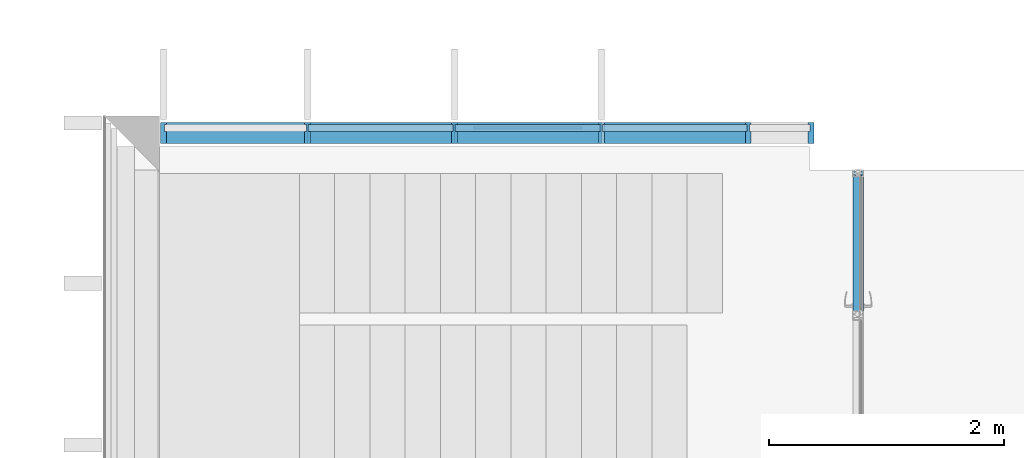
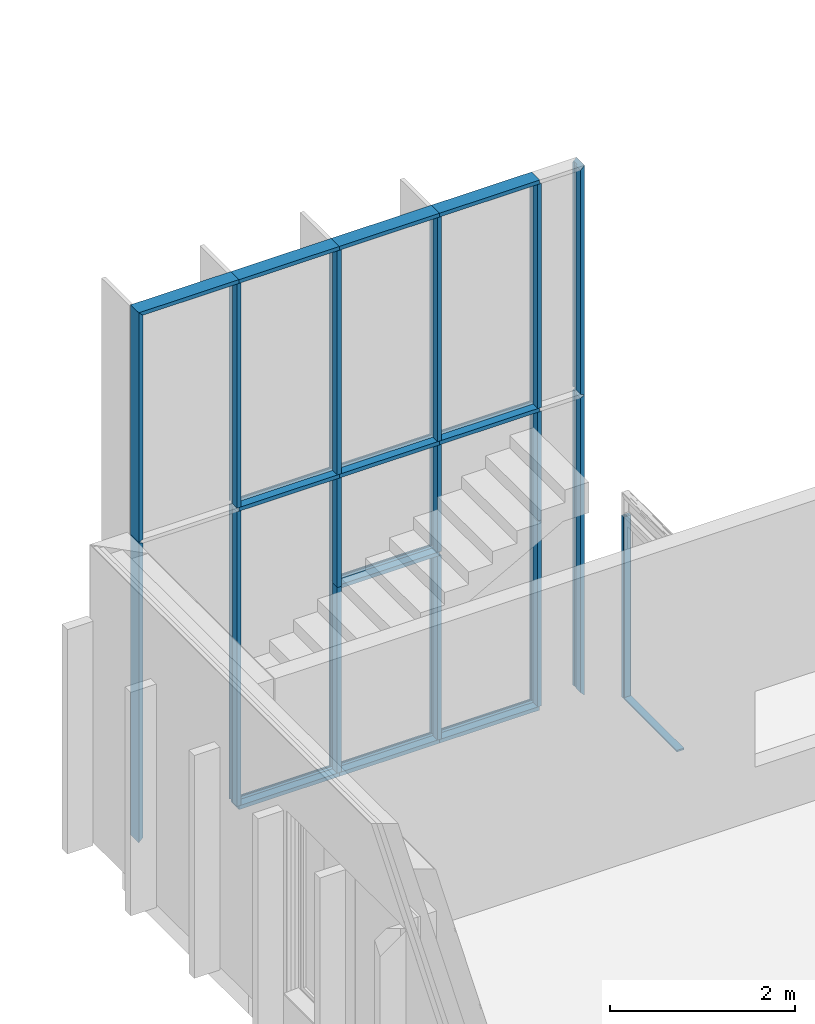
# One storey, part 5 of 65: 28 members, 2 elements without a shape of their own.
"""IFC2X3 building model written with IfcOpenShell, lengths in millimetres."""

import ifcopenshell
import ifcopenshell.guid

model = None  # the IFC model being written
_history = None  # IfcOwnerHistory: only IFC2X3 demands one
_inside = {}  # id of a spatial element -> (the spatial element, [elements in it])
_under = {}  # id of a project, library or spatial element -> (it, [spatial elements below it])
_declared = {}  # id of a project -> (the project, [libraries it declares])
_typed = {}  # id of a type object -> (the type object, [elements of that type])
_made_of = {}  # id of a material, layer set ... -> (it, [elements and type objects made of it])


def new_model(schema):
    """Start an empty IFC model of exactly this schema.

    Asked for "IFC4X3", IfcOpenShell would pick the latest addendum, in which some entities
    have other attributes; the version numbers below select the first issue.
    IFC2X3 requires an IfcOwnerHistory on every rooted entity: one is made here for all.
    """
    global model, _history
    if schema == "IFC4X3":
        model = ifcopenshell.file(schema_version=(4, 3, 0, 0))
    else:
        model = ifcopenshell.file(schema=schema)
    _inside.clear()
    _under.clear()
    _declared.clear()
    _typed.clear()
    _made_of.clear()
    _history = None
    if model.schema == "IFC2X3":
        org = make("IfcOrganization", Name="unknown")
        user = make(
            "IfcPersonAndOrganization",
            ThePerson=make("IfcPerson", FamilyName="unknown"),
            TheOrganization=org,
        )
        app = make(
            "IfcApplication",
            ApplicationDeveloper=org,
            Version="unknown",
            ApplicationFullName="unknown",
            ApplicationIdentifier="unknown",
        )
        _history = make(
            "IfcOwnerHistory",
            OwningUser=user,
            OwningApplication=app,
            ChangeAction="ADDED",
            CreationDate=0,
        )
    return model


def make(cls, **values):
    """One entity of the class cls with the attributes given. An attribute that is None is left unset."""
    return model.create_entity(
        cls, **{name: value for name, value in values.items() if value is not None}
    )


def entity(cls, *values):
    """Any entity or typed value of the class cls, its attributes in the order of the schema. None: left unset."""
    e = model.create_entity(cls)
    for i, value in enumerate(values):
        if value is not None:
            e[i] = value
    return e


def rooted(cls, **values):
    """An entity with a GlobalId (a new one), such as an element, a storey or a relation."""
    return make(cls, GlobalId=ifcopenshell.guid.new(), OwnerHistory=_history, **values)


def si_unit(unit_type, name, prefix=None):
    """IfcSIUnit, for example si_unit("LENGTHUNIT", "METRE", prefix="MILLI")."""
    return make("IfcSIUnit", UnitType=unit_type, Prefix=prefix, Name=name)


def converted_unit(unit_type, name, factor, base, dimensions=None, offset=None):
    """IfcConversionBasedUnit, such as the inch: factor (a typed value) times the base unit."""
    return make(
        "IfcConversionBasedUnit"
        if offset is None
        else "IfcConversionBasedUnitWithOffset",
        ConversionOffset=offset,
        Dimensions=None
        if dimensions is None
        else entity("IfcDimensionalExponents", *dimensions),
        UnitType=unit_type,
        Name=name,
        ConversionFactor=make(
            "IfcMeasureWithUnit", ValueComponent=factor, UnitComponent=base
        ),
    )


def derived_unit(unit_type, elements):
    """IfcDerivedUnit: a product of units, each with its exponent."""
    return make(
        "IfcDerivedUnit",
        Elements=[
            make("IfcDerivedUnitElement", Unit=unit, Exponent=power)
            for unit, power in elements
        ],
        UnitType=unit_type,
    )


def money_unit(currency):
    """IfcMonetaryUnit."""
    return make("IfcMonetaryUnit", Currency=currency)


def assignment(units):
    """IfcUnitAssignment: the units of a project."""
    return None if units is None else make("IfcUnitAssignment", Units=units)


def point(xyz):
    """IfcCartesianPoint."""
    return None if xyz is None else make("IfcCartesianPoint", Coordinates=xyz)


def direction(xyz):
    """IfcDirection."""
    return None if xyz is None else make("IfcDirection", DirectionRatios=xyz)


def frame(location, z_axis=None, x_axis=None):
    """IfcAxis2Placement3D, a coordinate frame: its origin and axes. An axis left out is left unset."""
    return make(
        "IfcAxis2Placement3D",
        Location=point(location),
        Axis=direction(z_axis),
        RefDirection=direction(x_axis),
    )


def origin_with_axes():
    """The frame at (0, 0, 0) with the z axis (0, 0, 1) and the x axis (1, 0, 0) written out."""
    return frame((0.0, 0.0, 0.0), z_axis=(0.0, 0.0, 1.0), x_axis=(1.0, 0.0, 0.0))


def place(relative_to, where):
    """IfcLocalPlacement: puts the frame where relative to a parent placement (None: the world)."""
    return make(
        "IfcLocalPlacement", PlacementRelTo=relative_to, RelativePlacement=where
    )


def context(
    kind, dimensions, precision=None, world=None, true_north=None, identifier=None
):
    """IfcGeometricRepresentationContext, for example the 3D "Model" context."""
    return make(
        "IfcGeometricRepresentationContext",
        ContextIdentifier=identifier,
        ContextType=kind,
        CoordinateSpaceDimension=dimensions,
        Precision=precision,
        WorldCoordinateSystem=world,
        TrueNorth=true_north,
    )


def subcontext(parent, identifier, kind, view, scale=None):
    """IfcGeometricRepresentationSubContext, for example "Body" below "Model"."""
    return make(
        "IfcGeometricRepresentationSubContext",
        ContextIdentifier=identifier,
        ContextType=kind,
        ParentContext=parent,
        TargetScale=scale,
        TargetView=view,
    )


def project(units=None, contexts=None):
    """IfcProject with its units and contexts."""
    return rooted(
        "IfcProject",
        Name="project",
        RepresentationContexts=contexts,
        UnitsInContext=assignment(units),
    )


def spatial(cls, under=None, at=None, **own):
    """A site, building, storey or space (cls), placed at a placement, below another one or the project."""
    s = rooted(cls, ObjectPlacement=at, **own)
    if under is not None:
        _under.setdefault(under.id(), (under, []))[1].append(s)
    return s


def polyline(points):
    """IfcPolyline through the points."""
    return make("IfcPolyline", Points=[point(p) for p in points])


def outline(outer, holes=None, kind="AREA"):
    """IfcArbitraryClosedProfileDef: a profile drawn as a closed curve; with holes, ...WithVoids."""
    if holes is None:
        return make("IfcArbitraryClosedProfileDef", ProfileType=kind, OuterCurve=outer)
    return make(
        "IfcArbitraryProfileDefWithVoids",
        ProfileType=kind,
        OuterCurve=outer,
        InnerCurves=holes,
    )


def extrude(swept, where, along, depth):
    """IfcExtrudedAreaSolid: the profile swept, set in the frame where, extruded along a direction by depth."""
    return make(
        "IfcExtrudedAreaSolid",
        SweptArea=swept,
        Position=where,
        ExtrudedDirection=direction(along),
        Depth=depth,
    )


def clip(a, b, op="DIFFERENCE"):
    """IfcBooleanClippingResult: the solid a cut by the half space b."""
    return make(
        "IfcBooleanClippingResult", Operator=op, FirstOperand=a, SecondOperand=b
    )


def halfspace(plane, agree):
    """IfcHalfSpaceSolid: all space on one side of the plane z = 0 of the frame plane."""
    return make(
        "IfcHalfSpaceSolid",
        BaseSurface=make("IfcPlane", Position=plane),
        AgreementFlag=agree,
    )


def shape(context_of_items, identifier, shape_type, items):
    """IfcShapeRepresentation: the items that make up one representation, for example the "Body"."""
    return make(
        "IfcShapeRepresentation",
        ContextOfItems=context_of_items,
        RepresentationIdentifier=identifier,
        RepresentationType=shape_type,
        Items=items,
    )


def material(Name=None, Category=None):
    """IfcMaterial."""
    return make("IfcMaterial", Name=Name, Category=Category)


def made_of(thing, what):
    """Note that an element or type object is made of a material, layer set ...; save() writes the relation."""
    if what is not None:
        _made_of.setdefault(what.id(), (what, []))[1].append(thing)
    return thing


def type_object(cls, material=None, **own):
    """A type object (cls), such as IfcWallType, which elements share."""
    return made_of(rooted(cls, **own), material)


def element(
    cls,
    number,
    at=None,
    inside=None,
    cuts=None,
    type_object=None,
    material=None,
    context=None,
    identifier="Body",
    shape_type=None,
    held_by="IfcProductDefinitionShape",
    body=None,
    shapes=None,
    **own,
):
    """One element of the class cls, such as IfcWall. Its Tag is "e" and its number.

    at: its placement. inside: the storey or other place that contains it. cuts: it is an
    opening in that element (IfcRelVoidsElement). A single representation is given by context,
    identifier, shape_type and body (its items); several are given by shapes. held_by: the class
    of the entity that holds the representations. save() writes the other relations.
    """
    e = rooted(cls, Tag="e%d" % number, ObjectPlacement=at, **own)
    if body is not None:
        shapes = [shape(context, identifier, shape_type, body)]
    if shapes is not None:
        e.Representation = make(held_by, Representations=shapes)
    if inside is not None:
        _inside.setdefault(inside.id(), (inside, []))[1].append(e)
    if cuts is not None:
        rooted(
            "IfcRelVoidsElement", RelatingBuildingElement=cuts, RelatedOpeningElement=e
        )
    if type_object is not None:
        _typed.setdefault(type_object.id(), (type_object, []))[1].append(e)
    return made_of(e, material)


def aggregate(whole, parts):
    """IfcRelAggregates: a whole, such as a stair, and the parts it consists of."""
    return rooted("IfcRelAggregates", RelatingObject=whole, RelatedObjects=parts)


def save(model, path):
    """Write the relations noted so far, then the file.

    IfcRelAggregates (storeys below a building ...), IfcRelContainedInSpatialStructure (elements
    in a storey), IfcRelDefinesByType, IfcRelAssociatesMaterial and IfcRelDeclares: one each for
    every whole, place, type object, material and project.
    """
    for whole, parts in _under.values():
        aggregate(whole, parts)
    for where, things in _inside.values():
        rooted(
            "IfcRelContainedInSpatialStructure",
            RelatedElements=things,
            RelatingStructure=where,
        )
    for kind, things in _typed.values():
        rooted("IfcRelDefinesByType", RelatedObjects=things, RelatingType=kind)
    for what, things in _made_of.values():
        rooted("IfcRelAssociatesMaterial", RelatedObjects=things, RelatingMaterial=what)
    for by, libraries in _declared.values():
        rooted("IfcRelDeclares", RelatingContext=by, RelatedDefinitions=libraries)
    model.write(path)


model = new_model("IFC2X3")

# Units and contexts
model_context = context("Model", 3, precision=0.01, world=origin_with_axes(), true_north=direction((0.0, 1.0)))
body_context = subcontext(model_context, "Body", "Model", "MODEL_VIEW")
ifc_project = project(units=[si_unit("LENGTHUNIT", "METRE", prefix="MILLI"), si_unit("AREAUNIT", "SQUARE_METRE"), si_unit("VOLUMEUNIT", "CUBIC_METRE"), converted_unit("PLANEANGLEUNIT", "DEGREE", entity("IfcPlaneAngleMeasure", 0.0174532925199), si_unit("PLANEANGLEUNIT", "RADIAN"), dimensions=[0, 0, 0, 0, 0, 0, 0]), si_unit("SOLIDANGLEUNIT", "STERADIAN"), money_unit("EUR"), converted_unit("TIMEUNIT", "Year", entity("IfcTimeMeasure", 31556926.0), si_unit("TIMEUNIT", "SECOND"), dimensions=[0, 0, 1, 0, 0, 0, 0]), si_unit("MASSUNIT", "GRAM", prefix="KILO"), si_unit("THERMODYNAMICTEMPERATUREUNIT", "DEGREE_CELSIUS"), si_unit("LUMINOUSINTENSITYUNIT", "LUMEN"), si_unit("ENERGYUNIT", "JOULE", prefix="MEGA"), derived_unit("THERMALCONDUCTANCEUNIT", [(si_unit("POWERUNIT", "WATT"), 1), (si_unit("LENGTHUNIT", "METRE"), -1), (si_unit("THERMODYNAMICTEMPERATUREUNIT", "KELVIN"), -1)]), derived_unit("SPECIFICHEATCAPACITYUNIT", [(si_unit("ENERGYUNIT", "JOULE"), 1), (si_unit("MASSUNIT", "GRAM", prefix="KILO"), -1), (si_unit("THERMODYNAMICTEMPERATUREUNIT", "KELVIN"), -1)]), derived_unit("MASSDENSITYUNIT", [(si_unit("MASSUNIT", "GRAM", prefix="KILO"), 1), (si_unit("VOLUMEUNIT", "CUBIC_METRE"), -1)])], contexts=[model_context])

# Site, building, storey
site_placement = place(None, origin_with_axes())
site = spatial("IfcSite", under=ifc_project, at=site_placement, Name="Puškini 31, Narva", CompositionType="ELEMENT")
building_placement = place(site_placement, origin_with_axes())
building = spatial("IfcBuilding", under=site, at=building_placement, Name="Narva Riigigümnaasium", CompositionType="ELEMENT")
storey_placement = place(building_placement, frame((0.0, 0.0, -1320.0), z_axis=(0.0, 0.0, 1.0), x_axis=(1.0, 0.0, 0.0)))
storey = spatial("IfcBuildingStorey", under=building, at=storey_placement, Name="1.korrus -1.32", CompositionType="ELEMENT", Elevation=-1320.0)

# Curtain wall, members
curtain_wall_type = type_object("IfcCurtainWallType", Name="Curtain Wall Type", PredefinedType="NOTDEFINED")
curtain_wall_1_placement = place(storey_placement, frame((28354.9542923, 194209.397521, 0.0), z_axis=(0.0, 0.0, 1.0), x_axis=(1.0, 0.0, 0.0)))
curtain_wall_1 = element("IfcCurtainWall", 1, at=curtain_wall_1_placement, inside=storey, type_object=curtain_wall_type, Name="G-SKLF-07")
ifc_material_1 = material(Name="ET-04_Alumiinium")
member_type_1 = type_object("IfcMemberType", Name="53 x 45", PredefinedType="MULLION")
member_1_placement = place(curtain_wall_1_placement, frame((0.00198791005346, 490.602478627, 0.0), z_axis=(0.0, 0.0, 1.0), x_axis=(-4.05197719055e-06, -0.999999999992, 0.0)))
member_1 = element("IfcMember", 2, at=member_1_placement, type_object=member_type_1, material=ifc_material_1, Name="G-SKLF-07-raam", ObjectType="MULLION", context=body_context, shape_type="SweptSolid", body=[
    extrude(outline(polyline([(-40.500006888, -1.6998358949), (-41.5999999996, 0.000168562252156), (-44.9999999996, 0.00018233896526), (-45.0001681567, -41.4998176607), (-36.2001701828, -41.9998533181), (-35.7002135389, -52.699855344), (-27.400215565, -53.1998889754), (-26.9001692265, -41.7638910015), (-26.9001584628, -39.1074867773), (-25.2469499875, -38.5809902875), (-23.0019530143, -38.9999064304), (-22.5019642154, -41.7642675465), (-22.0019757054, -44.5999104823), (-22.5019832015, -46.4499084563), (-20.7019489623, -37.9999157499), (-26.0502128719, -36.9089864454), (-26.250131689, -32.4998936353), (-22.6716742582, -33.3731132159), (-20.9001353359, -33.3999153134), (-20.7001272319, -31.3999161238), (-22.5001272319, -31.3999088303), (-25.4001199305, -29.5979732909), (-26.4981916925, -28.4998926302), (-26.9001094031, -26.9998910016), (-26.9000606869, -14.9770455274), (-17.4196153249, -8.77590536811), (-14.4500352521, -8.69994144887), (-14.9500312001, -7.69993942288), (-17.2400263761, -6.50940455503), (-18.7400093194, -2.29992406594), (-15.8500072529, -1.78993577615), (-21.7000008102, -0.199912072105), (-20.5000048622, -1.19991693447), (-20.5000109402, -2.69991693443), (-25.0000129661, -3.19989870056), (-25.5000028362, -0.699896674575), (-29.5000008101, -0.199880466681), (-28.0000068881, -1.69988654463), (-27.0000162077, -3.99989059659), (-42.0000202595, -4.99982981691), (-43.00001094, -2.69982576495), (-40.500006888, -1.6998358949)])), frame((0.0, 0.0, 0.0), z_axis=(0.0, 0.0, 1.0), x_axis=(-4.05197719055e-06, 0.999999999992, 0.0)), (0.0, 0.0, 1.0), 2400.00002459),
    extrude(outline(polyline([(-11.5049680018, -2.39995338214), (12.0049480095, -2.53402324), (13.3524604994, -4.60005410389), (17.2399736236, -6.5095442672), (18.7399906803, -2.30007593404), (15.8399927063, -1.8000641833), (-15.0400008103, -0.199939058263), (-18.2400072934, -1.79992609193), (-18.740022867, -5.6433730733), (-15.1572012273, -5.31844312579), (-12.3709954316, -2.89994987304), (-11.5049680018, -2.39995338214)])), frame((0.0, 0.0, 0.0), z_axis=(0.0, 0.0, 1.0), x_axis=(-4.05197719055e-06, 0.999999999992, 0.0)), (0.0, 0.0, 1.0), 2400.00002459),
    extrude(outline(polyline([(27.2128353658, -44.2351020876), (24.6998193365, -43.2001000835), (23.0045981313, -43.7249705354), (22.6997973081, -47.2500919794), (21.1997964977, -47.4500859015), (20.9997853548, -50.2000850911), (-20.8001929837, -50.3999157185), (-21.0001818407, -47.6499149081), (-22.5001810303, -47.4499088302), (-22.7001694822, -44.5999080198), (-24.7001694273, -43.1998999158), (-26.3953906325, -43.7247703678), (-26.700215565, -53.1998918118), (26.6997844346, -53.2001081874), (27.2128353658, -44.2351020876)])), frame((0.0, 0.0, 0.0), z_axis=(0.0, 0.0, 1.0), x_axis=(-4.05197719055e-06, 0.999999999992, 0.0)), (0.0, 0.0, 1.0), 2400.00002459),
    extrude(outline(polyline([(44.9999999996, -0.00018233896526), (41.5999999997, -0.000168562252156), (40.4999955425, -1.10016410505), (41.9999931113, -1.70017018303), (42.9999837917, -4.00017423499), (27.9999797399, -5.00011345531), (26.9999890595, -2.70010940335), (30.4999931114, -1.70012358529), (25.9999991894, -0.200105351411), (25.4999890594, -2.7001033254), (20.9999870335, -3.20008509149), (20.4999951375, -1.20008306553), (22.1999951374, -1.2000899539), (15.8499991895, -0.200064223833), (18.5499927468, -1.79007516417), (18.7499748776, -6.20007597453), (15.1571581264, -5.31856595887), (13.9499687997, -7.70005652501), (17.1545848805, -8.70006951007), (26.6649006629, -14.5532385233), (26.8998905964, -27.000108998), (26.4979607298, -28.5001073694), (25.3998800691, -29.5981791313), (23.8998784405, -30.000096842), (20.6998727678, -31.4000838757), (20.6998654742, -33.2000838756), (22.5714036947, -33.4000914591), (25.0498703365, -32.0001015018), (26.2498512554, -36.7091983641), (22.6655739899, -36.9091838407), (20.7015424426, -46.700083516), (22.5015624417, -41.7644498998), (22.5015716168, -39.5000908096), (24.8398988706, -39.0001002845), (26.4936649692, -38.5797344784), (26.8998307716, -41.764468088), (27.3998192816, -44.6001110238), (26.8997864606, -52.7001089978), (35.1997844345, -53.2001426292), (35.6998277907, -42.5001446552), (42.1998298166, -42.0001709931), (42.6997844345, -53.200173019), (44.9997844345, -53.2001823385), (44.9999999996, -0.00018233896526)])), frame((0.0, 0.0, 0.0), z_axis=(0.0, 0.0, 1.0), x_axis=(-4.05197719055e-06, 0.999999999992, 0.0)), (0.0, 0.0, 1.0), 2400.00002459),
])
ifc_material_2 = material(Name="Alumiiniumprofiil")
member_type_2 = type_object("IfcMemberType", Name="20 x 90", PredefinedType="MULLION")
member_2_placement = place(curtain_wall_1_placement, frame((-0.00287447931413, -709.401652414, 0.0), z_axis=(4.05197719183e-06, 0.999999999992, 0.0), x_axis=(0.0, 0.0, 1.0)))
member_2 = element("IfcMember", 3, at=member_2_placement, type_object=member_type_2, material=ifc_material_2, Name="G-SKLF-07-raam", ObjectType="MULLION", context=body_context, shape_type="SweptSolid", body=[
    extrude(outline(polyline([(-45.0, -20.0), (45.0, -20.0), (45.0, 0.0), (-45.0, 0.0), (-45.0, -20.0)])), frame((0.0, 0.0, 0.0), z_axis=(0.0, 0.0, 1.0), x_axis=(0.0, 1.0, 0.0)), (0.0, 0.0, 1.0), 1147.0),
])
aggregate(curtain_wall_1, [member_1, member_2])

curtain_wall_2_placement = place(storey_placement, frame((23044.9999985, 195055.000005, -0.000275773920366), z_axis=(0.0, 0.0, 1.0), x_axis=(1.0, 0.0, 0.0)))
curtain_wall_2 = element("IfcCurtainWall", 4, at=curtain_wall_2_placement, inside=storey, type_object=curtain_wall_type, Name="G-KLF-04")
member_type_3 = type_object("IfcMemberType", Name="Mullion Frame 50 x 176", PredefinedType="MULLION")
member_3_placement = place(curtain_wall_2_placement, frame((625.0, 0.0, 0.0), z_axis=(0.0, 0.0, 1.0), x_axis=(-1.0, 0.0, 0.0)))
member_3 = element("IfcMember", 5, at=member_3_placement, type_object=member_type_3, material=ifc_material_1, Name="klaasfassaadi raam", ObjectType="MULLION", context=body_context, shape_type="SweptSolid", body=[
    extrude(outline(polyline([(10.0, -29.0), (10.0, 29.0), (25.0, 29.0), (25.0, 46.0), (-25.0, 46.0), (-25.0, 29.0), (-10.0, 29.0), (-10.0, -29.0), (-25.0, -29.0), (-25.0, -130.0), (25.0, -130.0), (25.0, -29.0), (10.0, -29.0)])), frame((0.0, 0.0, 50.0), z_axis=(0.0, 0.0, 1.0), x_axis=(-1.0, 0.0, 0.0)), (0.0, 0.0, 1.0), 3885.00002624),
])
member_4_placement = place(curtain_wall_2_placement, frame((1875.0, 0.0, 2500.00029921), z_axis=(0.0, 0.0, 1.0), x_axis=(-1.0, 0.0, 0.0)))
member_4 = element("IfcMember", 6, at=member_4_placement, type_object=member_type_3, material=ifc_material_1, Name="klaasfassaadi raam", ObjectType="MULLION", context=body_context, shape_type="SweptSolid", body=[
    extrude(outline(polyline([(10.0, -29.0), (10.0, 29.0), (25.0, 29.0), (25.0, 46.0), (-25.0, 46.0), (-25.0, 29.0), (-10.0, 29.0), (-10.0, -29.0), (-25.0, -29.0), (-25.0, -130.0), (25.0, -130.0), (25.0, -29.0), (10.0, -29.0)])), frame((0.0, 0.0, 0.0), z_axis=(0.0, 0.0, 1.0), x_axis=(-1.0, 0.0, 0.0)), (0.0, 0.0, 1.0), 1434.99972703),
])
member_5_placement = place(curtain_wall_2_placement, frame((3125.0, 0.0, 2500.00029921), z_axis=(0.0, 0.0, 1.0), x_axis=(-1.0, 0.0, 0.0)))
member_5 = element("IfcMember", 7, at=member_5_placement, type_object=member_type_3, material=ifc_material_1, Name="klaasfassaadi raam", ObjectType="MULLION", context=body_context, shape_type="SweptSolid", body=[
    extrude(outline(polyline([(10.0, -29.0), (10.0, 29.0), (25.0, 29.0), (25.0, 46.0), (-25.0, 46.0), (-25.0, 29.0), (-10.0, 29.0), (-10.0, -29.0), (-25.0, -29.0), (-25.0, -130.0), (25.0, -130.0), (25.0, -29.0), (10.0, -29.0)])), frame((0.0, 0.0, 24.999999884), z_axis=(0.0, 0.0, 1.0), x_axis=(-1.0, 0.0, 0.0)), (0.0, 0.0, 1.0), 1409.99972715),
])
member_6_placement = place(curtain_wall_2_placement, frame((4375.0, 0.0, 2500.00045371), z_axis=(0.0, 0.0, 1.0), x_axis=(-1.0, 0.0, 0.0)))
member_6 = element("IfcMember", 8, at=member_6_placement, type_object=member_type_3, material=ifc_material_1, Name="klaasfassaadi raam", ObjectType="MULLION", context=body_context, shape_type="SweptSolid", body=[
    extrude(outline(polyline([(10.0, -29.0), (10.0, 29.0), (25.0, 29.0), (25.0, 46.0), (-25.0, 46.0), (-25.0, 29.0), (-10.0, 29.0), (-10.0, -29.0), (-25.0, -29.0), (-25.0, -130.0), (25.0, -130.0), (25.0, -29.0), (10.0, -29.0)])), frame((0.0, 0.0, 0.0), z_axis=(0.0, 0.0, 1.0), x_axis=(-1.0, 0.0, 0.0)), (0.0, 0.0, 1.0), 1434.99972703),
])
member_7_placement = place(curtain_wall_2_placement, frame((3125.0, 0.0, 0.0), z_axis=(0.0, 0.0, 1.0), x_axis=(-1.0, 0.0, 0.0)))
member_7 = element("IfcMember", 9, at=member_7_placement, type_object=member_type_3, material=ifc_material_1, Name="klaasfassaadi raam", ObjectType="MULLION", context=body_context, shape_type="SweptSolid", body=[
    extrude(outline(polyline([(10.0, -29.0), (10.0, 29.0), (25.0, 29.0), (25.0, 46.0), (-25.0, 46.0), (-25.0, 29.0), (-10.0, 29.0), (-10.0, -29.0), (-25.0, -29.0), (-25.0, -130.0), (25.0, -130.0), (25.0, -29.0), (10.0, -29.0)])), frame((0.0, 0.0, 50.0), z_axis=(0.0, 0.0, 1.0), x_axis=(-1.0, 0.0, 0.0)), (0.0, 0.0, 1.0), 2425.0003049),
])
member_8_placement = place(curtain_wall_2_placement, frame((1875.0, 0.0, 0.0), z_axis=(0.0, 0.0, 1.0), x_axis=(-1.0, 0.0, 0.0)))
member_8 = element("IfcMember", 10, at=member_8_placement, type_object=member_type_3, material=ifc_material_1, Name="klaasfassaadi raam", ObjectType="MULLION", context=body_context, shape_type="SweptSolid", body=[
    extrude(outline(polyline([(10.0, -29.0), (10.0, 29.0), (25.0, 29.0), (25.0, 46.0), (-25.0, 46.0), (-25.0, 29.0), (-10.0, 29.0), (-10.0, -29.0), (-25.0, -29.0), (-25.0, -130.0), (25.0, -130.0), (25.0, -29.0), (10.0, -29.0)])), frame((0.0, 0.0, 50.0), z_axis=(0.0, 0.0, 1.0), x_axis=(-1.0, 0.0, 0.0)), (0.0, 0.0, 1.0), 2450.00029921),
])
member_9_placement = place(curtain_wall_2_placement, frame((625.0, 0.0, 3960.00002624), z_axis=(0.0, 0.0, 1.0), x_axis=(-1.0, 0.0, 0.0)))
member_9 = element("IfcMember", 11, at=member_9_placement, type_object=member_type_3, material=ifc_material_1, Name="klaasfassaadi raam", ObjectType="MULLION", context=body_context, shape_type="SweptSolid", body=[
    extrude(outline(polyline([(10.0, -29.0), (10.0, 29.0), (25.0, 29.0), (25.0, 46.0), (-25.0, 46.0), (-25.0, 29.0), (-10.0, 29.0), (-10.0, -29.0), (-25.0, -29.0), (-25.0, -130.0), (25.0, -130.0), (25.0, -29.0), (10.0, -29.0)])), frame((0.0, 0.0, 25.0), z_axis=(0.0, 0.0, 1.0), x_axis=(-1.0, 0.0, 0.0)), (0.0, 0.0, 1.0), 2955.00016165),
])
member_10_placement = place(curtain_wall_2_placement, frame((1875.0, 0.0, 3960.00002624), z_axis=(0.0, 0.0, 1.0), x_axis=(-1.0, 0.0, 0.0)))
member_10 = element("IfcMember", 12, at=member_10_placement, type_object=member_type_3, material=ifc_material_1, Name="klaasfassaadi raam", ObjectType="MULLION", context=body_context, shape_type="SweptSolid", body=[
    extrude(outline(polyline([(10.0, -29.0), (10.0, 29.0), (25.0, 29.0), (25.0, 46.0), (-25.0, 46.0), (-25.0, 29.0), (-10.0, 29.0), (-10.0, -29.0), (-25.0, -29.0), (-25.0, -130.0), (25.0, -130.0), (25.0, -29.0), (10.0, -29.0)])), frame((0.0, 0.0, 25.0), z_axis=(0.0, 0.0, 1.0), x_axis=(-1.0, 0.0, 0.0)), (0.0, 0.0, 1.0), 2955.00016165),
])
member_11_placement = place(curtain_wall_2_placement, frame((3125.0, 0.0, 3960.00002624), z_axis=(0.0, 0.0, 1.0), x_axis=(-1.0, 0.0, 0.0)))
member_11 = element("IfcMember", 13, at=member_11_placement, type_object=member_type_3, material=ifc_material_1, Name="klaasfassaadi raam", ObjectType="MULLION", context=body_context, shape_type="SweptSolid", body=[
    extrude(outline(polyline([(10.0, -29.0), (10.0, 29.0), (25.0, 29.0), (25.0, 46.0), (-25.0, 46.0), (-25.0, 29.0), (-10.0, 29.0), (-10.0, -29.0), (-25.0, -29.0), (-25.0, -130.0), (25.0, -130.0), (25.0, -29.0), (10.0, -29.0)])), frame((0.0, 0.0, 25.0), z_axis=(0.0, 0.0, 1.0), x_axis=(-1.0, 0.0, 0.0)), (0.0, 0.0, 1.0), 2955.00016165),
])
member_12_placement = place(curtain_wall_2_placement, frame((4375.0, 0.0, 3960.00002624), z_axis=(0.0, 0.0, 1.0), x_axis=(-1.0, 0.0, 0.0)))
member_12 = element("IfcMember", 14, at=member_12_placement, type_object=member_type_3, material=ifc_material_1, Name="klaasfassaadi raam", ObjectType="MULLION", context=body_context, shape_type="SweptSolid", body=[
    extrude(outline(polyline([(10.0, -29.0), (10.0, 29.0), (25.0, 29.0), (25.0, 46.0), (-25.0, 46.0), (-25.0, 29.0), (-10.0, 29.0), (-10.0, -29.0), (-25.0, -29.0), (-25.0, -130.0), (25.0, -130.0), (25.0, -29.0), (10.0, -29.0)])), frame((0.0, 0.0, 25.0), z_axis=(0.0, 0.0, 1.0), x_axis=(-1.0, 0.0, 0.0)), (0.0, 0.0, 1.0), 2955.00016165),
])
member_13_placement = place(curtain_wall_2_placement, frame((4375.0, 0.0, 0.0), z_axis=(0.0, 0.0, 1.0), x_axis=(-1.0, 0.0, 0.0)))
member_13 = element("IfcMember", 15, at=member_13_placement, type_object=member_type_3, material=ifc_material_1, Name="klaasfassaadi raam", ObjectType="MULLION", context=body_context, shape_type="SweptSolid", body=[
    extrude(outline(polyline([(10.0, -29.0), (10.0, 29.0), (25.0, 29.0), (25.0, 46.0), (-25.0, 46.0), (-25.0, 29.0), (-10.0, 29.0), (-10.0, -29.0), (-25.0, -29.0), (-25.0, -130.0), (25.0, -130.0), (25.0, -29.0), (10.0, -29.0)])), frame((0.0, 0.0, 50.0), z_axis=(0.0, 0.0, 1.0), x_axis=(-1.0, 0.0, 0.0)), (0.0, 0.0, 1.0), 2450.00029921),
])
member_type_4 = type_object("IfcMemberType", Name="Boundary Frame 50 x 176", PredefinedType="MULLION")
member_14_placement = place(curtain_wall_2_placement, frame((-625.0, 0.0, 0.0), z_axis=(0.0, 0.0, 1.0), x_axis=(-1.0, 0.0, 0.0)))
member_14 = element("IfcMember", 16, at=member_14_placement, type_object=member_type_4, material=ifc_material_1, Name="klaasfassaadi raam", ObjectType="MULLION", context=body_context, shape_type="Clipping", body=[
    clip(clip(extrude(outline(polyline([(35.0, -29.0), (35.0, 29.0), (50.0, 29.0), (50.0, 46.0), (0.0, 46.0), (0.0, -130.0), (50.0, -130.0), (50.0, -29.0), (35.0, -29.0)])), frame((0.0, 0.0, 0.0), z_axis=(0.0, 0.0, 1.0), x_axis=(-1.0, 0.0, 0.0)), (0.0, 0.0, 1.0), 3960.00002624), halfspace(frame((-1584.0000105, 0.0, 3168.000021), z_axis=(0.4472135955, 0.0, -0.894427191), x_axis=(0.0, 1.0, 0.0)), True)), halfspace(frame((0.0, 0.0, 0.0), z_axis=(0.707106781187, 0.0, 0.707106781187), x_axis=(0.0, -1.0, 0.0)), True)),
])
member_15_placement = place(curtain_wall_2_placement, frame((625.0, 0.0, 0.0), z_axis=(1.0, 0.0, 0.0), x_axis=(0.0, 0.0, 1.0)))
member_15 = element("IfcMember", 17, at=member_15_placement, type_object=member_type_4, material=ifc_material_1, Name="klaasfassaadi raam", ObjectType="MULLION", context=body_context, shape_type="SweptSolid", body=[
    extrude(outline(polyline([(29.0, -35.0), (29.0, -50.0), (130.0, -50.0), (130.0, 0.0), (-46.0, 0.0), (-46.0, -50.0), (-29.0, -50.0), (-29.0, -35.0), (29.0, -35.0)])), frame((0.0, 0.0, 0.0), z_axis=(0.0, 0.0, 1.0), x_axis=(0.0, 1.0, 0.0)), (0.0, 0.0, 1.0), 1250.0),
])
member_16_placement = place(curtain_wall_2_placement, frame((1875.0, 0.0, 0.0), z_axis=(1.0, 0.0, 0.0), x_axis=(0.0, 0.0, 1.0)))
member_16 = element("IfcMember", 18, at=member_16_placement, type_object=member_type_4, material=ifc_material_1, Name="klaasfassaadi raam", ObjectType="MULLION", context=body_context, shape_type="SweptSolid", body=[
    extrude(outline(polyline([(29.0, -35.0), (29.0, -50.0), (130.0, -50.0), (130.0, 0.0), (-46.0, 0.0), (-46.0, -50.0), (-29.0, -50.0), (-29.0, -35.0), (29.0, -35.0)])), frame((0.0, 0.0, 0.0), z_axis=(0.0, 0.0, 1.0), x_axis=(0.0, 1.0, 0.0)), (0.0, 0.0, 1.0), 1250.0),
])
member_17_placement = place(curtain_wall_2_placement, frame((3125.0, 0.0, 0.0), z_axis=(1.0, 0.0, 0.0), x_axis=(0.0, 0.0, 1.0)))
member_17 = element("IfcMember", 19, at=member_17_placement, type_object=member_type_4, material=ifc_material_1, Name="klaasfassaadi raam", ObjectType="MULLION", context=body_context, shape_type="SweptSolid", body=[
    extrude(outline(polyline([(29.0, -35.0), (29.0, -50.0), (130.0, -50.0), (130.0, 0.0), (-46.0, 0.0), (-46.0, -50.0), (-29.0, -50.0), (-29.0, -35.0), (29.0, -35.0)])), frame((0.0, 0.0, 0.0), z_axis=(0.0, 0.0, 1.0), x_axis=(0.0, 1.0, 0.0)), (0.0, 0.0, 1.0), 1250.0),
])
member_18_placement = place(curtain_wall_2_placement, frame((4935.04017599, 0.0, 0.0), z_axis=(0.0, 0.0, 1.0), x_axis=(-1.0, 0.0, 0.0)))
member_18 = element("IfcMember", 20, at=member_18_placement, type_object=member_type_4, material=ifc_material_1, Name="klaasfassaadi raam", ObjectType="MULLION", context=body_context, shape_type="Clipping", body=[
    clip(clip(extrude(outline(polyline([(-35.0, -29.0), (-50.0, -29.0), (-50.0, -130.0), (0.0, -130.0), (0.0, 46.0), (-50.0, 46.0), (-50.0, 29.0), (-35.0, 29.0), (-35.0, -29.0)])), frame((0.0, 0.0, 0.0), z_axis=(0.0, 0.0, 1.0), x_axis=(-1.0, 0.0, 0.0)), (0.0, 0.0, 1.0), 3960.00002624), halfspace(frame((1584.0000105, 0.0, 3168.000021), z_axis=(-0.4472135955, 0.0, -0.894427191), x_axis=(0.0, 1.0, 0.0)), True)), halfspace(frame((0.0, 0.0, 0.0), z_axis=(-0.707106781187, 0.0, 0.707106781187), x_axis=(0.0, -1.0, 0.0)), True)),
])
member_19_placement = place(curtain_wall_2_placement, frame((625.0, 0.0, 3960.00002624), z_axis=(1.0, 0.0, 0.0), x_axis=(0.0, 0.0, 1.0)))
member_19 = element("IfcMember", 21, at=member_19_placement, type_object=member_type_4, material=ifc_material_1, Name="klaasfassaadi raam", ObjectType="MULLION", context=body_context, shape_type="SweptSolid", body=[
    extrude(outline(polyline([(29.0, 10.0), (-29.0, 10.0), (-29.0, 25.0), (-46.0, 25.0), (-46.0, -25.0), (-29.0, -25.0), (-29.0, -10.0), (29.0, -10.0), (29.0, -25.0), (130.0, -25.0), (130.0, 25.0), (29.0, 25.0), (29.0, 10.0)])), frame((0.0, 0.0, 0.0), z_axis=(0.0, 0.0, 1.0), x_axis=(0.0, 1.0, 0.0)), (0.0, 0.0, 1.0), 1250.0),
])
member_20_placement = place(curtain_wall_2_placement, frame((1875.0, 0.0, 3960.00002624), z_axis=(1.0, 0.0, 0.0), x_axis=(0.0, 0.0, 1.0)))
member_20 = element("IfcMember", 22, at=member_20_placement, type_object=member_type_4, material=ifc_material_1, Name="klaasfassaadi raam", ObjectType="MULLION", context=body_context, shape_type="SweptSolid", body=[
    extrude(outline(polyline([(29.0, 10.0), (-29.0, 10.0), (-29.0, 25.0), (-46.0, 25.0), (-46.0, -25.0), (-29.0, -25.0), (-29.0, -10.0), (29.0, -10.0), (29.0, -25.0), (130.0, -25.0), (130.0, 25.0), (29.0, 25.0), (29.0, 10.0)])), frame((0.0, 0.0, 0.0), z_axis=(0.0, 0.0, 1.0), x_axis=(0.0, 1.0, 0.0)), (0.0, 0.0, 1.0), 1250.0),
])
member_21_placement = place(curtain_wall_2_placement, frame((3125.0, 0.0, 3960.00002624), z_axis=(1.0, 0.0, 0.0), x_axis=(0.0, 0.0, 1.0)))
member_21 = element("IfcMember", 23, at=member_21_placement, type_object=member_type_4, material=ifc_material_1, Name="klaasfassaadi raam", ObjectType="MULLION", context=body_context, shape_type="SweptSolid", body=[
    extrude(outline(polyline([(29.0, 10.0), (-29.0, 10.0), (-29.0, 25.0), (-46.0, 25.0), (-46.0, -25.0), (-29.0, -25.0), (-29.0, -10.0), (29.0, -10.0), (29.0, -25.0), (130.0, -25.0), (130.0, 25.0), (29.0, 25.0), (29.0, 10.0)])), frame((0.0, 0.0, 0.0), z_axis=(0.0, 0.0, 1.0), x_axis=(0.0, 1.0, 0.0)), (0.0, 0.0, 1.0), 1250.0),
])
member_22_placement = place(curtain_wall_2_placement, frame((-625.0, 0.0, 3960.00002624), z_axis=(0.0, 0.0, 1.0), x_axis=(-1.0, 0.0, 0.0)))
member_22 = element("IfcMember", 24, at=member_22_placement, type_object=member_type_4, material=ifc_material_1, Name="klaasfassaadi raam", ObjectType="MULLION", context=body_context, shape_type="Clipping", body=[
    clip(clip(extrude(outline(polyline([(35.0, -29.0), (35.0, 29.0), (50.0, 29.0), (50.0, 46.0), (0.0, 46.0), (0.0, -130.0), (50.0, -130.0), (50.0, -29.0), (35.0, -29.0)])), frame((0.0, 0.0, 0.0), z_axis=(0.0, 0.0, 1.0), x_axis=(-1.0, 0.0, 0.0)), (0.0, 0.0, 1.0), 3030.00003725), halfspace(frame((-1515.00001863, 0.0, 1515.00001863), z_axis=(0.707106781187, 0.0, -0.707106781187), x_axis=(0.0, 1.0, 0.0)), True)), halfspace(frame((0.0, 0.0, 0.0), z_axis=(0.4472135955, 0.0, 0.894427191), x_axis=(0.0, -1.0, 0.0)), True)),
])
member_23_placement = place(curtain_wall_2_placement, frame((4935.04017599, 0.0, 3960.00002624), z_axis=(0.0, 0.0, 1.0), x_axis=(-1.0, 0.0, 0.0)))
member_23 = element("IfcMember", 25, at=member_23_placement, type_object=member_type_4, material=ifc_material_1, Name="klaasfassaadi raam", ObjectType="MULLION", context=body_context, shape_type="Clipping", body=[
    clip(clip(extrude(outline(polyline([(-35.0, -29.0), (-50.0, -29.0), (-50.0, -130.0), (0.0, -130.0), (0.0, 46.0), (-50.0, 46.0), (-50.0, 29.0), (-35.0, 29.0), (-35.0, -29.0)])), frame((0.0, 0.0, 0.0), z_axis=(0.0, 0.0, 1.0), x_axis=(-1.0, 0.0, 0.0)), (0.0, 0.0, 1.0), 3030.00016165), halfspace(frame((1515.00008083, 0.0, 1515.00008083), z_axis=(-0.707106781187, 0.0, -0.707106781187), x_axis=(0.0, 1.0, 0.0)), True)), halfspace(frame((0.0, 0.0, 0.0), z_axis=(-0.4472135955, 0.0, 0.894427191), x_axis=(0.0, -1.0, 0.0)), True)),
])
member_24_placement = place(curtain_wall_2_placement, frame((-625.0, 0.0, 6990.0001879), z_axis=(1.0, 0.0, 0.0), x_axis=(0.0, 0.0, 1.0)))
member_24 = element("IfcMember", 26, at=member_24_placement, type_object=member_type_4, material=ifc_material_1, Name="klaasfassaadi raam", ObjectType="MULLION", context=body_context, shape_type="Clipping", body=[
    clip(extrude(outline(polyline([(29.0, 35.0), (-29.0, 35.0), (-29.0, 50.0), (-46.0, 50.0), (-46.0, 0.0), (130.0, 0.0), (130.0, 50.0), (29.0, 50.0), (29.0, 35.0)])), frame((0.0, 0.0, 0.0), z_axis=(0.0, 0.0, 1.0), x_axis=(0.0, 1.0, 0.0)), (0.0, 0.0, 1.0), 1250.0), halfspace(frame((0.0, 0.0, 0.0), z_axis=(0.707106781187, 0.0, 0.707106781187), x_axis=(0.0, -1.0, 0.0)), True)),
])
member_25_placement = place(curtain_wall_2_placement, frame((625.0, 0.0, 6990.0001879), z_axis=(1.0, 0.0, 0.0), x_axis=(0.0, 0.0, 1.0)))
member_25 = element("IfcMember", 27, at=member_25_placement, type_object=member_type_4, material=ifc_material_1, Name="klaasfassaadi raam", ObjectType="MULLION", context=body_context, shape_type="SweptSolid", body=[
    extrude(outline(polyline([(29.0, 35.0), (-29.0, 35.0), (-29.0, 50.0), (-46.0, 50.0), (-46.0, 0.0), (130.0, 0.0), (130.0, 50.0), (29.0, 50.0), (29.0, 35.0)])), frame((0.0, 0.0, 0.0), z_axis=(0.0, 0.0, 1.0), x_axis=(0.0, 1.0, 0.0)), (0.0, 0.0, 1.0), 1250.0),
])
member_26_placement = place(curtain_wall_2_placement, frame((1875.0, 0.0, 6990.0001879), z_axis=(1.0, 0.0, 0.0), x_axis=(0.0, 0.0, 1.0)))
member_26 = element("IfcMember", 28, at=member_26_placement, type_object=member_type_4, material=ifc_material_1, Name="klaasfassaadi raam", ObjectType="MULLION", context=body_context, shape_type="SweptSolid", body=[
    extrude(outline(polyline([(29.0, 35.0), (-29.0, 35.0), (-29.0, 50.0), (-46.0, 50.0), (-46.0, 0.0), (130.0, 0.0), (130.0, 50.0), (29.0, 50.0), (29.0, 35.0)])), frame((0.0, 0.0, 0.0), z_axis=(0.0, 0.0, 1.0), x_axis=(0.0, 1.0, 0.0)), (0.0, 0.0, 1.0), 1250.0),
])
member_27_placement = place(curtain_wall_2_placement, frame((3125.0, 0.0, 6990.0001879), z_axis=(1.0, 0.0, 0.0), x_axis=(0.0, 0.0, 1.0)))
member_27 = element("IfcMember", 29, at=member_27_placement, type_object=member_type_4, material=ifc_material_1, Name="klaasfassaadi raam", ObjectType="MULLION", context=body_context, shape_type="SweptSolid", body=[
    extrude(outline(polyline([(29.0, 35.0), (-29.0, 35.0), (-29.0, 50.0), (-46.0, 50.0), (-46.0, 0.0), (130.0, 0.0), (130.0, 50.0), (29.0, 50.0), (29.0, 35.0)])), frame((0.0, 0.0, 0.0), z_axis=(0.0, 0.0, 1.0), x_axis=(0.0, 1.0, 0.0)), (0.0, 0.0, 1.0), 1250.0),
])
member_28_placement = place(curtain_wall_2_placement, frame((1899.99999062, 0.0, 2500.0003023), z_axis=(1.0, 0.0, -2.52227189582e-09), x_axis=(2.52227189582e-09, 0.0, 1.0)))
member_28 = element("IfcMember", 30, at=member_28_placement, type_object=member_type_4, material=ifc_material_1, Name="klaasfassaadi raam", ObjectType="MULLION", context=body_context, shape_type="SweptSolid", body=[
    extrude(outline(polyline([(29.0, 9.99999691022), (-29.0, 9.99999691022), (-29.0, 24.9999969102), (-46.0, 24.9999969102), (-46.0, -25.0000030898), (-29.0, -25.0000030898), (-29.0, -10.0000030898), (29.0, -10.0000030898), (29.0, -25.0000030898), (130.0, -25.0000030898), (130.0, 24.9999969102), (29.0, 24.9999969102), (29.0, 9.99999691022)])), frame((0.0, 0.0, -6.3057115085e-08), z_axis=(0.0, 0.0, 1.0), x_axis=(0.0, 1.0, 0.0)), (0.0, 0.0, 1.0), 1225.00001266),
])
aggregate(curtain_wall_2, [member_14, member_15, member_3, member_16, member_4, member_17, member_5, member_6, member_18, member_19, member_20, member_21, member_7, member_8, member_22, member_9, member_10, member_11, member_12, member_23, member_24, member_25, member_26, member_27, member_28, member_13])

save(model, "model.ifc")
